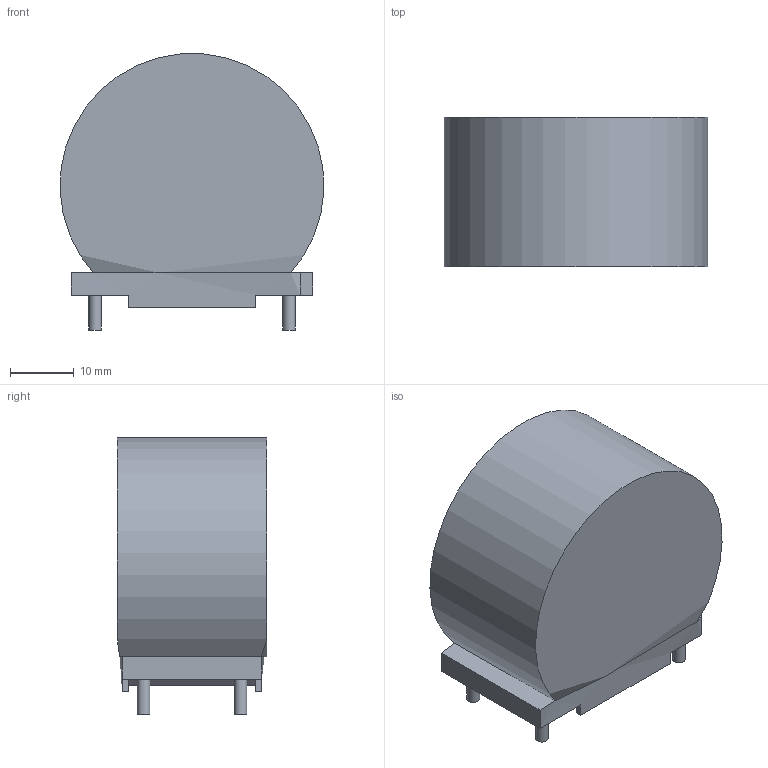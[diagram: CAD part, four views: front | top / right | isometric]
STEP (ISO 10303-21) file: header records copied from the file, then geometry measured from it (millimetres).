
FILE_DESCRIPTION(/* description */ (''),/* implementation_level */ '2;1');
FILE_NAME(/* name */ 'F:\Done\2016\多产品3D模拟\终版\新建文件夹\6126-X216\6126-X216 3D Model.stp',/* time_stamp */ '2016-07-12T15:00:19+08:00',/* author */ ('CN000562'),/* organization */ (''),/* preprocessor_version */ 'ST-DEVELOPER v16.5',/* originating_system */ 'Autodesk Inventor 2017',/* authorisation */ '');
FILE_SCHEMA (('AUTOMOTIVE_DESIGN { 1 0 10303 214 3 1 1 }'));
Length unit declared in the file: millimetre
Products named in the file (1): 6126-X216 3D Model
Bounding box: 41.46 x 23.5 x 43.43 mm (x, y, z)
Volume: 31079.8 mm3; surface area: 6260.5 mm2
Topology: 1 solids, 1 shells, 33 faces, 73 edges, 46 vertices
Faces by surface type: plane 28, cylinder 5
Full cylindrical faces by diameter (mm): 2 x4
Entity records: 903 total; most frequent: CARTESIAN_POINT 149, DIRECTION 147, ORIENTED_EDGE 138, EDGE_CURVE 69, LINE 59, VECTOR 59, VERTEX_POINT 46, AXIS2_PLACEMENT_3D 44
